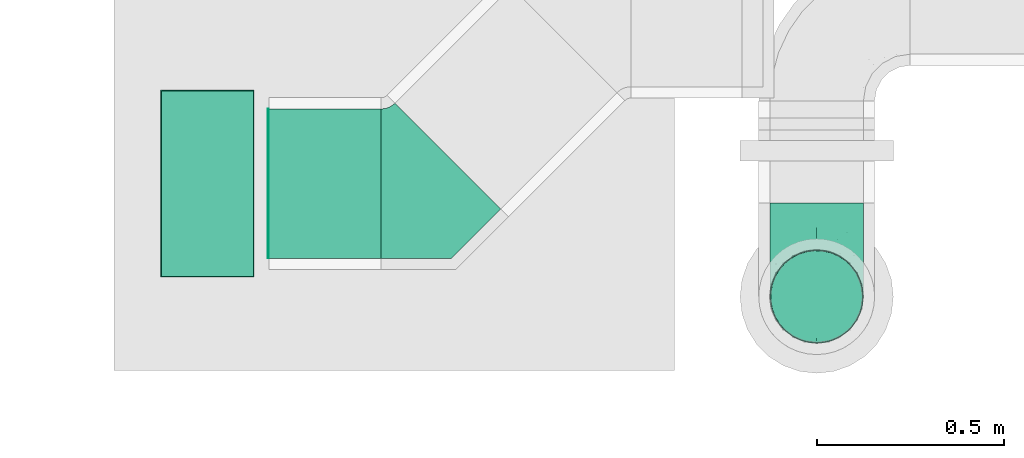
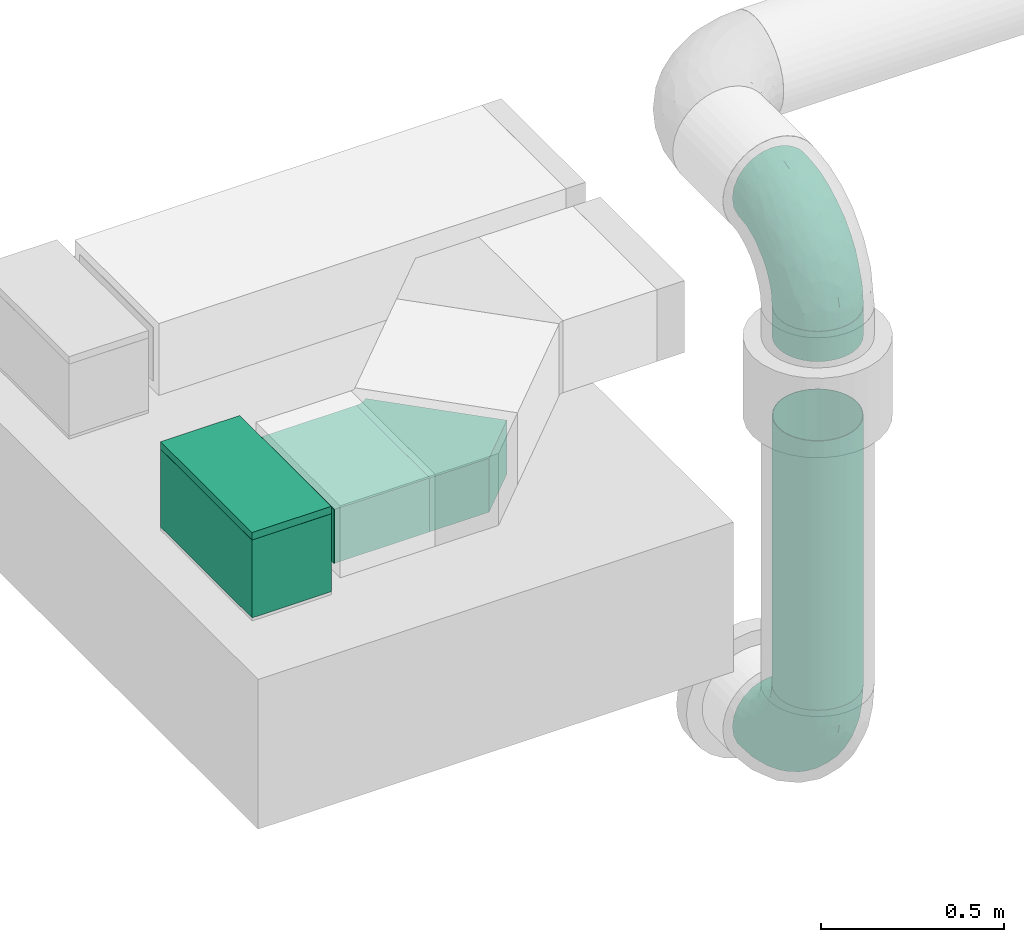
# One storey, part 4 of 9: 4 flow fittings, 4 flow segments, 1 flow terminal.
"""IFC2X3 building model written with IfcOpenShell, lengths in millimetres."""

from ifc_helpers import new_model, entity, si_unit, converted_unit, derived_unit, direction, frame, origin_with_axes, origin_2d_with_axis, place, context, subcontext, project, spatial, hollow_rectangle, hollow_circle, extrude, open_shell, surface_model, source, transform, mapped, type_object, element, save


model = new_model("IFC2X3")

# Units and contexts
model_context = context("Model", 3, precision=0.01, world=frame((0.0, 4.29681676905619e-09, 0.0)), true_north=direction((4.01073788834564e-13, 1.0)))
plan_context = context("Plan", 3, precision=0.01, world=frame((0.0, 4.29681676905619e-09, 0.0)), true_north=direction((4.01073788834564e-13, 1.0)))
body_context = subcontext(model_context, "Body", "Model", "MODEL_VIEW")
ifc_project = project(units=[converted_unit("PLANEANGLEUNIT", "DEGREE", entity("IfcPositiveLengthMeasure", 0.0174532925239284), si_unit("PLANEANGLEUNIT", "RADIAN"), dimensions=[0, 0, 0, 0, 0, 0, 0]), si_unit("AREAUNIT", "SQUARE_METRE"), si_unit("LENGTHUNIT", "METRE", prefix="MILLI"), si_unit("MASSUNIT", "GRAM", prefix="KILO"), si_unit("POWERUNIT", "WATT"), si_unit("PRESSUREUNIT", "PASCAL"), si_unit("FORCEUNIT", "NEWTON", prefix="KILO"), si_unit("ELECTRICVOLTAGEUNIT", "VOLT"), si_unit("ELECTRICCURRENTUNIT", "AMPERE"), si_unit("THERMODYNAMICTEMPERATUREUNIT", "DEGREE_CELSIUS"), si_unit("TIMEUNIT", "SECOND"), si_unit("VOLUMEUNIT", "CUBIC_METRE"), derived_unit("LINEARVELOCITYUNIT", [(si_unit("LENGTHUNIT", "METRE"), 1), (si_unit("TIMEUNIT", "SECOND"), -1)]), derived_unit("VOLUMETRICFLOWRATEUNIT", [(si_unit("VOLUMEUNIT", "CUBIC_METRE"), 1), (si_unit("TIMEUNIT", "SECOND"), -1)]), derived_unit("THERMALTRANSMITTANCEUNIT", [(si_unit("POWERUNIT", "WATT"), 1), (si_unit("THERMODYNAMICTEMPERATUREUNIT", "KELVIN"), -1), (si_unit("AREAUNIT", "SQUARE_METRE"), -1)]), derived_unit("SOUNDPRESSUREUNIT", [(si_unit("PRESSUREUNIT", "PASCAL"), 1)])], contexts=[model_context, plan_context])

# Site, building, storey
site_placement = place(None, frame((0.0, -4.29681676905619e-09, 0.0), z_axis=(0.0, 0.0, 1.0), x_axis=(1.0, 0.0, 0.0)))
site = spatial("IfcSite", under=ifc_project, at=site_placement, CompositionType="ELEMENT")
building_placement = place(site_placement, frame((0.0, 4.29681676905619e-09, 0.0), z_axis=(0.0, 0.0, 1.0), x_axis=(1.0, 0.0, 0.0)))
building = spatial("IfcBuilding", under=site, at=building_placement, Name="mc-building", CompositionType="ELEMENT")
storey_placement = place(building_placement, frame((0.0, 0.0, 210200.0), z_axis=(0.0, 0.0, 1.0), x_axis=(1.0, 0.0, 0.0)))
storey = spatial("IfcBuildingStorey", under=building, at=storey_placement, Name="Nivå F -0,7m", CompositionType="ELEMENT", Elevation=210200.0)

# Flow fittings
duct_fitting_type_1 = type_object("IfcDuctFittingType", Name="magicirc_elbow_full_radius_001", PredefinedType="BEND")
shared_shape_1 = source(origin_with_axes(), body_context, "Body", "SurfaceModel", [
    surface_model("IfcShellBasedSurfaceModel", [(-250.0, 0.0, -125.0), (-250.0, -88.38835, -88.38835), (-250.0, 32.35238, -120.74073), (-250.0, 62.5, -108.25318), (-250.0, 88.38835, -88.38835), (-250.0, 120.74073, -32.35238), (-250.0, 108.25318, -62.5), (-250.0, -62.5, -108.25318), (-250.0, -32.35238, -120.74073), (-250.0, -108.25318, -62.5), (-250.0, -120.74073, -32.35238), (-250.0, -125.0, 0.0), (-250.0, -88.38835, 88.38835), (-250.0, 120.74073, 32.35238), (-250.0, -62.5, 108.25318), (-250.0, 108.25318, 62.5), (-250.0, 62.5, 108.25318), (-250.0, 88.38835, 88.38835), (-250.0, 32.35238, 120.74073), (-250.0, -108.25318, 62.5), (-250.0, -120.74073, 32.35238), (-250.0, -32.35238, 120.74073), (-250.0, 0.0, 125.0), (-250.0, 125.0, 0.0), (-32.35238, 250.0, -120.74073), (88.38835, 250.0, -88.38835), (0.0, 250.0, -125.0), (-88.38835, 250.0, -88.38835), (-62.5, 250.0, -108.25318), (-108.25318, 250.0, -62.5), (-120.74073, 250.0, -32.35238), (32.35238, 250.0, -120.74073), (62.5, 250.0, -108.25318), (120.74073, 250.0, -32.35238), (108.25318, 250.0, -62.5), (125.0, 250.0, 0.0), (88.38835, 250.0, 88.38835), (62.5, 250.0, 108.25318), (-120.74073, 250.0, 32.35238), (-108.25318, 250.0, 62.5), (-62.5, 250.0, 108.25318), (-88.38835, 250.0, 88.38835), (-32.35238, 250.0, 120.74073), (120.74073, 250.0, 32.35238), (108.25318, 250.0, 62.5), (0.0, 250.0, 125.0), (32.35238, 250.0, 120.74073), (-125.0, 250.0, 0.0), (-210.86951, 73.07385, 104.36376), (-184.88194, -119.30291, 0.0), (-195.25827, -115.02308, 37.93413), (-218.90842, -122.27984, 0.0), (53.79635, 43.6295, 43.29829), (28.71982, 26.00799, 63.66662), (24.95926, 3.36677, 37.10772), (-143.32142, -83.48741, 74.82033), (-148.43956, -66.68827, 93.84246), (-193.81021, -79.4231, 92.40443), (-215.01547, -101.28826, 70.7859), (-170.24804, -98.61932, 63.57524), (15.48822, 139.1377, 119.17758), (51.95219, 181.65541, 109.88177), (21.43204, 199.18477, 122.23461), (-92.12122, -88.57213, 0.0), (-62.5, -74.75953, 0.0), (-102.19713, -88.25159, 37.84333), (114.99061, 194.89886, 37.86695), (105.10704, 146.7157, 35.60305), (110.84382, 153.31219, 0.0), (-35.72732, -56.0131, 0.0), (-19.33443, -42.66525, 24.1819), (-49.61048, -64.84865, 21.07887), (-134.49668, -18.50083, 117.62872), (-140.3114, 18.31287, 124.83908), (-163.87891, -5.14412, 123.50312), (-19.95522, 81.94859, 120.03225), (-25.80872, 122.13882, 124.73796), (-52.10962, 92.30678, 124.9631), (-31.05983, -5.99293, 89.90144), (-41.72797, 23.84412, 111.01725), (-81.01653, -19.40599, 104.87443), (-106.83954, -79.59981, 60.56422), (-146.98015, -105.1079, 35.84762), (-71.29451, -72.63164, 38.82328), (-73.06126, 220.06184, 103.19018), (-98.79093, 205.2116, 84.29848), (-75.91528, 182.06995, 107.88634), (-199.69686, 99.57099, 85.2884), (-203.49675, 11.2922, 124.81465), (-116.53306, 171.44239, 81.08815), (-111.87993, 90.36566, 118.79078), (-104.67411, 138.16705, 105.76412), (-145.96795, 109.49288, 99.87096), (-196.30432, -21.44057, 122.11502), (-215.51315, -51.86659, 112.81539), (-204.26429, 116.15735, 61.96761), (-171.07855, 119.2179, 78.533), (-181.86003, 134.49131, 46.84392), (-214.14919, 125.14691, 34.6495), (-134.49131, 181.86003, 46.84392), (-159.17408, 159.17408, 29.15352), (-152.46395, 152.46395, 55.37908), (-211.37287, 131.11793, 0.0), (-188.77781, 138.76885, 22.08599), (-176.52685, 148.87287, 0.0), (-90.84545, 14.70792, 120.26896), (-165.92299, 79.38605, 109.77065), (-194.42694, 43.85537, 119.55352), (38.35285, 111.1449, 103.53188), (67.56111, 151.47747, 93.91415), (101.2929, 214.32433, 70.67839), (-11.88244, 26.84905, 98.98258), (69.59743, 58.34132, 24.07272), (88.25159, 102.19715, 37.84335), (71.67798, 75.77581, 46.99643), (-84.05365, 84.19131, 124.04603), (-74.05474, 58.59216, 124.60033), (122.27984, 218.90842, 0.0), (-11.46722, -27.90939, 45.97099), (2.8419, -2.84189, 63.66452), (-36.75436, -35.39096, 65.83052), (79.49517, 196.80314, 92.78444), (59.14009, 215.57843, 109.07718), (-43.54002, 203.9777, 118.93211), (-3.74505, 217.94309, 124.98888), (47.42619, 250.0, 114.49695), (-11.6252, 186.58509, 124.95553), (-37.69004, 161.1507, 123.41409), (-148.87287, 176.52685, 0.0), (-138.76885, 188.77781, 22.08599), (-131.11793, 211.37287, 0.0), (-125.14691, 214.14919, 34.6495), (-84.38488, 127.39299, 117.02266), (-59.20815, 123.25028, 123.23304), (-63.59847, 155.77939, 118.03647), (56.0131, 35.72732, 0.0), (48.70082, 26.28379, 21.1922), (-116.19732, 204.24725, 61.91096), (9.4067, 98.99033, 114.49463), (79.67349, 106.95659, 60.52634), (-16.17619, 250.0, 122.87036), (82.93177, 142.04467, 75.00397), (-143.56269, 53.49001, 122.15523), (102.38473, 121.74244, 0.0), (88.57213, 92.12122, 0.0), (44.74763, 58.49273, 72.95926), (18.11496, 55.96411, 95.23773), (9.69309, 23.39724, 81.63831), (-67.51915, -39.60495, 84.29377), (98.46572, 169.05992, 63.37638), (-170.8102, -51.18183, 108.87038), (-153.31219, -110.84382, 0.0), (-123.62588, -42.04646, 104.74517), (-73.23164, -60.48705, 64.15546), (-139.54816, 139.54816, 82.62583), (-108.1391, 55.1991, 124.67421), (-60.03995, 38.39208, 120.18375), (65.18219, 107.64577, 80.24903), (43.4165, 83.93892, 89.61045), (-4.9115, 60.75686, 109.8509), (-110.21718, -65.96071, 80.65176), (-43.62951, -53.79636, 43.29829), (37.26667, 8.95465, 0.0), (14.15601, -14.15601, 0.0), (-8.95465, -37.26667, 0.0), (-121.74244, -102.38473, 0.0), (74.75953, 62.5, 0.0), (119.30291, 184.88194, 0.0), (-48.82206, -1.60827, -102.07682), (-81.15095, 5.22067, -115.678), (-46.7578, 29.40312, -114.58593), (-204.53459, 115.51747, -62.86787), (-214.14919, 125.14691, -34.6495), (-181.86003, 134.49131, -46.84392), (-14.61222, -31.35351, -44.43883), (11.84236, -11.84236, -33.95092), (-22.4719, -45.07054, -24.34392), (-223.1891, 97.50172, -81.04959), (-204.40195, 73.34241, -105.17442), (-205.98338, 43.52544, -118.79771), (-115.51747, 204.53457, -62.86787), (-123.49723, 170.45377, -74.23949), (-134.49131, 181.86003, -46.84392), (-183.06045, -52.02369, -110.01015), (-110.47452, -37.60202, -103.79083), (-151.64326, -67.35, -94.13381), (-188.77781, 138.76885, -22.08599), (-114.75143, 65.55471, -123.1751), (-107.82895, 32.74573, -124.62786), (-148.44163, 51.08373, -122.1244), (-159.17408, 159.17408, -29.15352), (-138.76885, 188.77781, -22.08599), (-119.19358, 124.76558, -104.29075), (-156.37688, 113.94777, -91.79313), (-139.54817, 139.54815, -82.62583), (-17.8555, 5.83155, -89.841), (-53.98544, -29.45541, -85.32833), (52.02369, 183.06045, -110.01015), (-194.89886, -114.99061, -37.86695), (68.13995, 56.13213, -24.5986), (53.12789, 44.54335, -46.08326), (71.63973, 76.43802, -47.84654), (-218.9084, -122.27984, 0.0), (-142.39083, -82.85696, -75.24042), (-197.12937, -79.50134, -92.82571), (-214.32433, -101.2929, -70.67839), (-187.89553, 11.55914, -124.94803), (-76.28398, -71.66476, -47.61611), (-102.35833, -88.16959, -38.28022), (-107.64683, -79.80589, -60.8013), (-55.74247, -67.93132, -24.47435), (-73.34242, 204.40195, -105.17441), (-199.49861, -21.42932, -122.24748), (-107.64576, -65.1822, -80.24902), (-0.34225, 0.34224, -70.72271), (29.30666, 54.05255, -85.49962), (16.15015, 142.42885, -119.37772), (43.11376, 128.52401, -105.34342), (14.39958, 85.87454, -108.99442), (-152.46395, 152.46393, -55.37908), (-125.14691, 214.14919, -34.6495), (-83.7122, 64.8786, -124.99462), (-54.88917, 96.03345, -124.99152), (-55.00537, 55.00536, -122.31604), (114.99061, 194.89886, -37.86695), (-97.50172, 223.1891, -81.04959), (-101.67989, 188.66846, -87.26306), (21.42932, 199.49861, -122.24748), (-11.55914, 187.89551, -124.94803), (-17.77846, 99.36444, -122.09337), (-43.52544, 205.98336, -118.79771), (-142.42885, -16.15015, -119.37772), (79.50134, 197.12936, -92.82571), (-188.66846, 101.67988, -87.26306), (-170.17192, 125.74792, -71.81093), (45.368, 22.81369, -24.20694), (101.2929, 214.32433, -70.67839), (105.10171, 146.67975, -35.58648), (88.16959, 102.35833, -38.28022), (79.96492, 108.09127, -60.85482), (-146.67975, -105.10171, -35.58648), (122.27984, 218.9084, 0.0), (98.46572, 169.0599, -63.37638), (-144.66282, 11.20212, -124.51517), (-87.43442, 152.97293, -109.2834), (67.3894, 152.70136, -94.37252), (-152.97295, 87.4344, -109.2834), (-102.45394, 113.88071, -114.88639), (-64.92037, 173.4251, -114.6928), (-51.08373, 148.44162, -122.1244), (-30.24824, 128.8738, -124.99659), (30.47164, 29.3995, -64.89969), (53.45139, 66.81998, -68.66115), (65.18219, 107.64576, -80.24903), (82.78793, 142.70732, -75.45609), (-67.10765, -53.67876, -68.59085), (-44.54336, -53.12789, -46.08326), (-169.05992, -98.46572, -63.37638), (-77.48047, 126.65809, -119.10822), (-111.62197, 155.40485, -94.01416), (-173.42512, 64.92037, -114.69279), (-93.45156, 93.45155, -121.68252), (31.52201, 14.63788, -44.14115), (-75.97227, -25.0209, -99.65574), (-18.30454, 63.16594, -115.56557), (-16.44961, 32.13712, -103.97124), (-29.64558, -30.50919, -65.101)], [open_shell([[[0, 1, 2]], [[3, 2, 4]], [[5, 6, 4]], [[1, 4, 2]], [[4, 1, 5]], [[7, 1, 8]], [[1, 0, 8]], [[9, 10, 1]], [[11, 1, 10]], [[11, 12, 1]], [[13, 5, 1]], [[1, 14, 13]], [[13, 14, 15]], [[16, 15, 14]], [[17, 15, 16]], [[16, 14, 18]], [[19, 12, 20]], [[20, 12, 11]], [[21, 22, 14]], [[12, 14, 1]], [[14, 22, 18]], [[23, 5, 13]], [[24, 25, 26]], [[27, 24, 28]], [[27, 29, 30]], [[24, 27, 25]], [[30, 25, 27]], [[31, 25, 32]], [[31, 26, 25]], [[25, 33, 34]], [[33, 25, 35]], [[25, 36, 35]], [[25, 30, 37]], [[30, 38, 37]], [[39, 37, 38]], [[37, 39, 40]], [[40, 39, 41]], [[42, 37, 40]], [[43, 36, 44]], [[35, 36, 43]], [[37, 45, 46]], [[25, 37, 36]], [[42, 45, 37]], [[30, 47, 38]], [[17, 16, 48]], [[49, 50, 51]], [[52, 53, 54]], [[55, 56, 57]], [[58, 50, 59]], [[60, 61, 62]], [[63, 64, 65]], [[66, 67, 68]], [[69, 70, 71]], [[72, 73, 74]], [[75, 76, 77]], [[12, 57, 14]], [[78, 79, 80]], [[81, 82, 65]], [[64, 83, 65]], [[84, 85, 86]], [[12, 19, 58]], [[12, 58, 57]], [[17, 48, 87]], [[22, 88, 18]], [[86, 85, 89]], [[90, 91, 92]], [[93, 21, 94]], [[95, 96, 97]], [[85, 41, 39]], [[15, 17, 87]], [[21, 93, 22]], [[23, 13, 98]], [[99, 100, 101]], [[91, 86, 89]], [[102, 103, 104]], [[80, 79, 105]], [[106, 48, 107]], [[107, 16, 18]], [[14, 94, 21]], [[61, 108, 109]], [[36, 110, 44]], [[79, 78, 111]], [[112, 113, 114]], [[84, 40, 41]], [[44, 66, 43]], [[115, 116, 77]], [[45, 62, 46]], [[66, 117, 43]], [[118, 119, 120]], [[37, 121, 36]], [[121, 37, 122]], [[123, 124, 42]], [[98, 97, 103]], [[66, 44, 110]], [[15, 87, 95]], [[122, 37, 125]], [[126, 127, 76]], [[128, 129, 130]], [[129, 131, 130]], [[128, 104, 100]], [[130, 131, 47]], [[132, 133, 134]], [[42, 40, 123]], [[99, 129, 100]], [[135, 112, 136]], [[126, 123, 127]], [[137, 38, 131]], [[138, 60, 76]], [[19, 20, 50]], [[101, 100, 97]], [[114, 113, 139]], [[124, 45, 140]], [[46, 62, 122]], [[103, 100, 104]], [[92, 96, 87]], [[119, 118, 54]], [[98, 95, 97]], [[141, 121, 109]], [[88, 22, 93]], [[142, 107, 73]], [[143, 113, 144]], [[145, 146, 147]], [[78, 148, 120]], [[81, 65, 83]], [[39, 38, 137]], [[85, 137, 89]], [[139, 67, 149]], [[121, 110, 36]], [[72, 93, 150]], [[88, 73, 107]], [[55, 59, 81]], [[94, 57, 150]], [[50, 20, 51]], [[50, 151, 82]], [[62, 45, 124]], [[60, 62, 126]], [[109, 121, 61]], [[110, 121, 149]], [[84, 123, 40]], [[127, 134, 133]], [[152, 72, 150]], [[105, 73, 72]], [[149, 67, 66]], [[149, 141, 139]], [[153, 81, 83]], [[82, 59, 50]], [[88, 93, 74]], [[107, 18, 88]], [[100, 129, 128]], [[131, 129, 99]], [[131, 99, 137]], [[131, 38, 47]], [[99, 101, 89]], [[39, 137, 85]], [[99, 89, 137]], [[89, 154, 91]], [[92, 154, 96]], [[91, 132, 134]], [[102, 23, 98]], [[100, 103, 97]], [[102, 98, 103]], [[95, 13, 15]], [[95, 98, 13]], [[96, 95, 87]], [[92, 87, 106]], [[96, 154, 101]], [[90, 92, 106]], [[91, 154, 92]], [[107, 142, 106]], [[105, 116, 155]], [[115, 155, 116]], [[116, 156, 75]], [[107, 48, 16]], [[87, 48, 106]], [[80, 105, 72]], [[156, 105, 79]], [[152, 150, 56]], [[148, 78, 80]], [[152, 148, 80]], [[145, 157, 158]], [[146, 111, 147]], [[108, 157, 109]], [[79, 111, 159]], [[76, 127, 133]], [[96, 101, 97]], [[89, 101, 154]], [[73, 105, 155]], [[90, 106, 142]], [[160, 153, 148]], [[148, 153, 120]], [[153, 160, 81]], [[120, 153, 161]], [[118, 120, 161]], [[78, 120, 119]], [[161, 70, 118]], [[162, 136, 54]], [[163, 70, 164]], [[70, 163, 54]], [[71, 70, 161]], [[151, 50, 49]], [[83, 71, 161]], [[69, 164, 70]], [[153, 83, 161]], [[65, 165, 63]], [[55, 81, 160]], [[82, 81, 59]], [[56, 55, 160]], [[57, 59, 55]], [[160, 148, 152]], [[57, 56, 150]], [[160, 152, 56]], [[80, 72, 152]], [[71, 64, 69]], [[134, 123, 86]], [[77, 76, 133]], [[138, 76, 75]], [[126, 76, 60]], [[123, 134, 127]], [[91, 134, 86]], [[91, 90, 132]], [[115, 132, 90]], [[133, 132, 115]], [[75, 77, 116]], [[133, 115, 77]], [[155, 90, 142]], [[90, 155, 115]], [[73, 155, 142]], [[108, 61, 60]], [[141, 109, 157]], [[138, 75, 159]], [[158, 146, 145]], [[139, 141, 157]], [[121, 141, 149]], [[145, 114, 139]], [[139, 113, 67]], [[145, 139, 157]], [[112, 114, 52]], [[136, 112, 52]], [[166, 144, 112]], [[54, 136, 52]], [[135, 166, 112]], [[136, 162, 135]], [[67, 143, 68]], [[65, 82, 165]], [[112, 144, 113]], [[68, 167, 66]], [[85, 84, 41]], [[123, 84, 86]], [[20, 11, 51]], [[117, 66, 167]], [[117, 35, 43]], [[66, 110, 149]], [[57, 94, 14]], [[93, 94, 150]], [[50, 58, 19]], [[57, 58, 59]], [[122, 62, 61]], [[46, 122, 125]], [[121, 122, 61]], [[124, 123, 126]], [[42, 124, 140]], [[62, 124, 126]], [[88, 74, 73]], [[93, 72, 74]], [[113, 143, 67]], [[64, 71, 83]], [[75, 156, 79]], [[116, 105, 156]], [[147, 78, 119]], [[159, 111, 146]], [[138, 146, 108]], [[79, 159, 75]], [[78, 147, 111]], [[147, 53, 145]], [[53, 147, 119]], [[114, 145, 52]], [[146, 138, 159]], [[108, 60, 138]], [[54, 53, 119]], [[52, 145, 53]], [[54, 118, 70]], [[163, 162, 54]], [[151, 165, 82]], [[157, 108, 158]], [[146, 158, 108]], [[168, 169, 170]], [[171, 172, 173]], [[174, 175, 176]], [[4, 177, 178]], [[179, 2, 3]], [[180, 181, 182]], [[102, 172, 23]], [[183, 184, 185]], [[104, 186, 102]], [[187, 188, 189]], [[190, 128, 191]], [[171, 5, 172]], [[192, 193, 194]], [[168, 195, 196]], [[197, 31, 32]], [[4, 6, 177]], [[198, 10, 9]], [[199, 200, 201]], [[198, 202, 10]], [[203, 204, 185]], [[205, 198, 9]], [[179, 3, 178]], [[7, 183, 204]], [[4, 178, 3]], [[206, 0, 2]], [[186, 172, 102]], [[207, 208, 209]], [[205, 9, 1]], [[210, 208, 207]], [[211, 27, 28]], [[212, 0, 206]], [[1, 7, 204]], [[213, 185, 184]], [[214, 195, 215]], [[128, 190, 104]], [[216, 217, 218]], [[173, 190, 219]], [[176, 69, 210]], [[30, 220, 47]], [[221, 222, 223]], [[34, 33, 224]], [[220, 180, 182]], [[29, 27, 225]], [[226, 225, 211]], [[26, 227, 228]], [[228, 24, 26]], [[0, 212, 8]], [[31, 227, 26]], [[216, 218, 229]], [[211, 28, 230]], [[8, 183, 7]], [[212, 231, 183]], [[232, 197, 32]], [[233, 171, 234]], [[235, 200, 199]], [[175, 164, 176]], [[199, 144, 166]], [[169, 188, 223]], [[236, 25, 34]], [[228, 227, 216]], [[237, 238, 239]], [[198, 240, 151]], [[241, 167, 224]], [[236, 224, 242]], [[243, 189, 188]], [[220, 182, 191]], [[244, 226, 211]], [[197, 245, 217]], [[226, 181, 180]], [[246, 192, 247]], [[248, 230, 249]], [[130, 191, 128]], [[32, 25, 232]], [[250, 216, 229]], [[219, 190, 182]], [[186, 190, 173]], [[251, 215, 252]], [[253, 254, 239]], [[165, 208, 63]], [[207, 255, 256]], [[209, 240, 257]], [[33, 35, 241]], [[224, 33, 241]], [[224, 68, 237]], [[28, 24, 230]], [[244, 211, 248]], [[246, 178, 233]], [[179, 189, 206]], [[244, 248, 258]], [[244, 192, 259]], [[222, 229, 223]], [[189, 260, 246]], [[193, 233, 234]], [[187, 246, 261]], [[231, 212, 206]], [[183, 8, 212]], [[185, 204, 183]], [[205, 204, 257]], [[31, 197, 227]], [[216, 227, 197]], [[236, 232, 25]], [[245, 254, 253]], [[252, 239, 201]], [[237, 242, 224]], [[257, 240, 198]], [[257, 203, 209]], [[24, 228, 230]], [[249, 230, 228]], [[179, 178, 260]], [[206, 2, 179]], [[190, 186, 104]], [[172, 186, 173]], [[234, 171, 173]], [[172, 5, 23]], [[177, 171, 233]], [[5, 171, 6]], [[130, 47, 220]], [[190, 191, 182]], [[130, 220, 191]], [[180, 30, 29]], [[30, 180, 220]], [[225, 180, 29]], [[210, 69, 64]], [[214, 251, 262]], [[219, 234, 173]], [[234, 194, 193]], [[259, 194, 181]], [[246, 233, 193]], [[244, 258, 247]], [[246, 193, 192]], [[259, 181, 226]], [[181, 194, 219]], [[244, 259, 226]], [[194, 259, 192]], [[181, 219, 182]], [[234, 219, 194]], [[184, 183, 231]], [[203, 185, 213]], [[169, 184, 231]], [[213, 184, 263]], [[231, 206, 243]], [[169, 223, 170]], [[264, 218, 265]], [[217, 215, 218]], [[169, 168, 263]], [[196, 266, 255]], [[243, 169, 231]], [[221, 187, 261]], [[209, 203, 213]], [[204, 203, 257]], [[196, 195, 266]], [[209, 208, 240]], [[255, 209, 213]], [[210, 207, 256]], [[209, 255, 207]], [[213, 196, 255]], [[210, 256, 176]], [[64, 63, 210]], [[174, 214, 175]], [[256, 255, 266]], [[174, 176, 256]], [[175, 162, 163]], [[256, 266, 174]], [[214, 174, 266]], [[176, 164, 69]], [[218, 215, 265]], [[252, 201, 200]], [[265, 170, 264]], [[216, 197, 217]], [[188, 221, 223]], [[229, 222, 250]], [[258, 222, 261]], [[250, 222, 249]], [[245, 197, 232]], [[215, 217, 253]], [[254, 232, 242]], [[253, 217, 245]], [[232, 254, 245]], [[242, 237, 239]], [[242, 239, 254]], [[201, 239, 238]], [[238, 143, 144]], [[251, 252, 200]], [[215, 253, 252]], [[239, 252, 253]], [[238, 199, 201]], [[199, 135, 235]], [[262, 200, 235]], [[215, 251, 214]], [[264, 223, 229]], [[262, 235, 175]], [[214, 262, 175]], [[251, 200, 262]], [[135, 199, 166]], [[135, 162, 235]], [[261, 222, 221]], [[188, 187, 221]], [[246, 187, 189]], [[249, 228, 250]], [[216, 250, 228]], [[240, 165, 151]], [[238, 237, 143]], [[210, 63, 208]], [[151, 49, 198]], [[202, 198, 49]], [[202, 11, 10]], [[204, 205, 1]], [[198, 205, 257]], [[224, 236, 34]], [[232, 236, 242]], [[211, 225, 27]], [[180, 225, 226]], [[171, 177, 6]], [[178, 177, 233]], [[230, 248, 211]], [[258, 248, 249]], [[222, 258, 249]], [[247, 258, 261]], [[246, 247, 261]], [[244, 247, 192]], [[179, 260, 189]], [[178, 246, 260]], [[144, 199, 238]], [[208, 165, 240]], [[162, 175, 235]], [[163, 164, 175]], [[168, 170, 265]], [[195, 168, 265]], [[168, 196, 263]], [[223, 264, 170]], [[218, 264, 229]], [[215, 195, 265]], [[195, 214, 266]], [[189, 243, 206]], [[169, 243, 188]], [[68, 224, 167]], [[68, 143, 237]], [[213, 263, 196]], [[169, 263, 184]]])]),
])
for number, where, z_axis, x_axis, name in (
    (1, (524180.93348, 455661.93875, 3920.0), (1.0, 0.0, 0.0), (0.0, -1.0, 0.0), "magicirc_elbow_full_radius_001"),
    (2, (524180.93348, 455661.93875, 2156.11027999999), (1.0, 0.0, 0.0), (0.0, 0.0, -1.0), "magicirc_elbow_full_radius_001"),
):
    element("IfcFlowFitting", number, at=place(storey_placement, frame(where, z_axis=z_axis, x_axis=x_axis)), inside=storey, type_object=duct_fitting_type_1, Name=name, context=body_context, shape_type="MappedRepresentation", body=[
        mapped(shared_shape_1, transform((0.0, 0.0, 0.0), scale=1.0)),
    ])
duct_fitting_type_2 = type_object("IfcDuctFittingType", Name="magirect_plug1_001", PredefinedType="OBSTRUCTION")
shared_shape_2 = source(origin_with_axes(), body_context, "Body", "SurfaceModel", [
    surface_model("IfcShellBasedSurfaceModel", [(0.0, 250.0, 125.0), (0.0, 250.0, -125.0), (0.0, -250.0, -125.0), (0.0, -250.0, 125.0), (25.0, -250.0, -125.0), (25.0, 250.0, -125.0), (25.0, 250.0, 125.0), (25.0, -250.0, 125.0)], [open_shell([[[0, 1, 2]], [[2, 3, 0]], [[4, 5, 6]], [[6, 7, 4]], [[1, 0, 5]], [[6, 5, 0]], [[2, 1, 5]], [[5, 4, 2]], [[3, 2, 7]], [[4, 7, 2]], [[0, 3, 6]], [[7, 6, 3]]])]),
])
flow_fitting_1_placement = place(storey_placement, frame((522550.93348, 455964.00517, 3469.51542000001), z_axis=(-1.0, 0.0, 0.0), x_axis=(0.0, 0.0, 1.0)))
element("IfcFlowFitting", 3, at=flow_fitting_1_placement, inside=storey, type_object=duct_fitting_type_2, Name="magirect_plug1_001", context=body_context, shape_type="MappedRepresentation", body=[
    mapped(shared_shape_2, transform((0.0, 0.0, 0.0), scale=1.0)),
])
duct_fitting_type_3 = type_object("IfcDuctFittingType", Name="WA", PredefinedType="BEND")
shared_shape_3 = source(origin_with_axes(), body_context, "Body", "SurfaceModel", [
    surface_model("IfcShellBasedSurfaceModel", [(-68.19805, 214.64466, 90.0), (-78.55339, 206.69874, 90.0), (214.64466, -68.19805, 90.0), (-67.13739, 215.70533, 90.0), (-90.61244, 201.70371, 90.0), (82.84271, -200.0, 90.0), (-105.05339, -200.0, 90.0), (-103.55339, 200.0, 90.0), (-105.05339, 200.0, 90.0), (215.70533, -67.13739, 90.0), (82.84271, -200.0, -90.0), (-105.05339, -200.0, -90.0), (-90.61244, 201.70371, -90.0), (-103.55339, 200.0, -90.0), (-105.05339, 200.0, -90.0), (-78.55339, 206.69874, -90.0), (214.64466, -68.19805, -90.0), (-67.13739, 215.70533, -90.0), (215.70533, -67.13739, -90.0), (-68.19805, 214.64466, -90.0)], [open_shell([[[0, 1, 2]], [[3, 0, 2]], [[4, 5, 1]], [[6, 5, 4]], [[6, 7, 8]], [[9, 3, 2]], [[2, 1, 5]], [[7, 6, 4]], [[10, 11, 12]], [[13, 11, 14]], [[15, 16, 10]], [[17, 18, 16]], [[13, 12, 11]], [[19, 17, 16]], [[15, 19, 16]], [[12, 15, 10]], [[15, 1, 0]], [[0, 19, 15]], [[15, 12, 1]], [[13, 7, 4]], [[4, 12, 13]], [[1, 12, 4]], [[8, 7, 13]], [[13, 14, 8]], [[6, 8, 14]], [[14, 11, 6]], [[5, 6, 11]], [[11, 10, 5]], [[2, 5, 16]], [[10, 16, 5]], [[9, 2, 18]], [[16, 18, 2]], [[3, 9, 18]], [[18, 17, 3]], [[0, 3, 19]], [[17, 19, 3]]])]),
])
flow_fitting_2_placement = place(storey_placement, frame((523120.24296, 455964.00517, 3350.0), z_axis=(0.0, 0.0, 1.0), x_axis=(1.0, 0.0, 0.0)))
element("IfcFlowFitting", 4, at=flow_fitting_2_placement, inside=storey, type_object=duct_fitting_type_3, Name="WA", context=body_context, shape_type="MappedRepresentation", body=[
    mapped(shared_shape_3, transform((0.0, 0.0, 0.0), scale=1.0)),
])

# Flow segments
duct_segment_type_1 = type_object("IfcDuctSegmentType", Name="KK001T - Spiro kanaler, Forsinket stål", PredefinedType="RIGIDSEGMENT")
shared_shape_4 = source(origin_with_axes(), body_context, "Body", "SweptSolid", [
    extrude(hollow_circle(Radius=125.0, WallThickness=2.0, at=origin_2d_with_axis()), frame((0.0, 0.0, 0.0), z_axis=(1.0, 0.0, 0.0), x_axis=(0.0, 1.0, 0.0)), (0.0, 0.0, 1.0), 898.3),
])
flow_segment_1_placement = place(storey_placement, frame((524180.93348, 455661.93875, 3304.37533000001), z_axis=(0.0, -1.0, 0.0), x_axis=(0.0, 0.0, -1.0)))
element("IfcFlowSegment", 5, at=flow_segment_1_placement, inside=storey, type_object=duct_segment_type_1, Name="KK001T - Spiro kanaler, Forsinket stål", context=body_context, shape_type="MappedRepresentation", body=[
    mapped(shared_shape_4, transform((0.0, 0.0, 0.0), scale=1.0)),
])
shared_shape_5 = source(origin_with_axes(), body_context, "Body", "SweptSolid", [
    extrude(hollow_circle(Radius=125.0, WallThickness=2.0, at=origin_2d_with_axis()), frame((0.0, 0.0, 0.0), z_axis=(1.0, 0.0, 0.0), x_axis=(0.0, 1.0, 0.0)), (0.0, 0.0, 1.0), 100.6),
])
flow_segment_2_placement = place(storey_placement, frame((524180.93348, 455661.93875, 3569.37533000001), z_axis=(0.0, 1.0, 0.0), x_axis=(0.0, 0.0, 1.0)))
element("IfcFlowSegment", 6, at=flow_segment_2_placement, inside=storey, type_object=duct_segment_type_1, Name="KK001T - Spiro kanaler, Forsinket stål", context=body_context, shape_type="MappedRepresentation", body=[
    mapped(shared_shape_5, transform((0.0, 0.0, 0.0), scale=1.0)),
])
duct_segment_type_2 = type_object("IfcDuctSegmentType", Name="Rektangulær kanal", PredefinedType="RIGIDSEGMENT")
shared_shape_6 = source(origin_with_axes(), body_context, "Body", "SweptSolid", [
    extrude(hollow_rectangle(XDim=500.0, YDim=250.0, WallThickness=2.0, at=origin_2d_with_axis()), frame((0.0, 0.0, 0.0), z_axis=(1.0, 0.0, 0.0), x_axis=(0.0, 1.0, 0.0)), (0.0, 0.0, 1.0), 260.0),
])
flow_segment_3_placement = place(storey_placement, frame((522550.93348, 455964.00517, 3209.51542000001), z_axis=(-1.0, 0.0, 0.0), x_axis=(0.0, 0.0, 1.0)))
element("IfcFlowSegment", 7, at=flow_segment_3_placement, inside=storey, type_object=duct_segment_type_2, Name="Rektangulær kanal", context=body_context, shape_type="MappedRepresentation", body=[
    mapped(shared_shape_6, transform((0.0, 0.0, 0.0), scale=1.0)),
])
duct_segment_type_3 = type_object("IfcDuctSegmentType", Name="Rectangular duct", PredefinedType="RIGIDSEGMENT")
shared_shape_7 = source(origin_with_axes(), body_context, "Body", "SweptSolid", [
    extrude(hollow_rectangle(XDim=400.0, YDim=180.0, WallThickness=2.0, at=origin_2d_with_axis()), frame((0.0, 0.0, 0.0), z_axis=(1.0, 0.0, 0.0), x_axis=(0.0, 1.0, 0.0)), (0.0, 0.0, 1.0), 299.9),
])
flow_segment_4_placement = place(storey_placement, frame((523015.18957, 455964.00517, 3350.0), z_axis=(0.0, 0.0, 1.0), x_axis=(-1.0, 0.0, 0.0)))
element("IfcFlowSegment", 8, at=flow_segment_4_placement, inside=storey, type_object=duct_segment_type_3, Name="Rectangular duct", context=body_context, shape_type="MappedRepresentation", body=[
    mapped(shared_shape_7, transform((0.0, 0.0, 0.0), scale=1.0)),
])

# Flow terminal
shared_shape_8 = source(origin_with_axes(), body_context, "Body", "SurfaceModel", [
    surface_model("IfcShellBasedSurfaceModel", [(2.0, 200.0, 90.0), (2.0, -200.0, 90.0), (2.0, 200.0, -90.0), (2.0, -200.0, -90.0), (0.0, 200.0, -90.0), (0.0, -200.0, -90.0), (0.0, 200.0, 90.0), (0.0, -200.0, 90.0)], [open_shell([[[0, 1, 2]], [[3, 2, 1]], [[4, 5, 6]], [[7, 6, 5]], [[3, 1, 7]], [[7, 5, 3]], [[2, 3, 5]], [[5, 4, 2]], [[0, 2, 4]], [[4, 6, 0]], [[1, 0, 6]], [[6, 7, 1]]])]),
])
flow_terminal_placement = place(storey_placement, frame((522715.24296, 455964.00517, 3350.0), z_axis=(0.0, 0.0, 1.0), x_axis=(-1.0, 0.0, 0.0)))
element("IfcFlowTerminal", 9, at=flow_terminal_placement, inside=storey, Name="MC_ConnectionNode_Return_Air_Rectangular", context=body_context, shape_type="MappedRepresentation", body=[
    mapped(shared_shape_8, transform((0.0, 0.0, 0.0), scale=1.0)),
])

save(model, "model.ifc")
